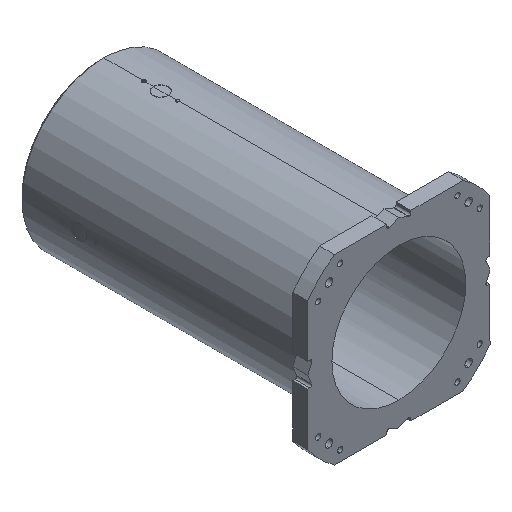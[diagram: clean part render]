
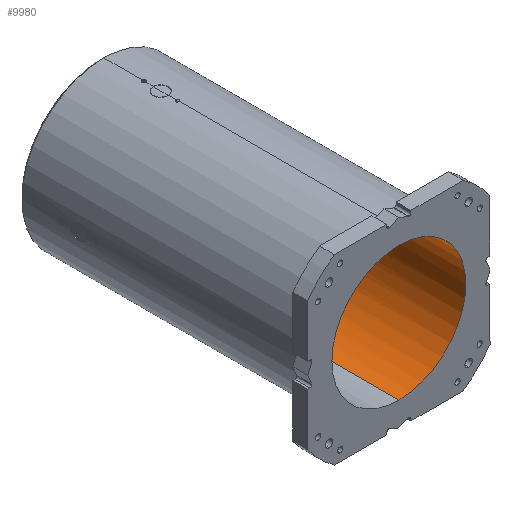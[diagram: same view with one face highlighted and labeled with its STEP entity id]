
A CAD part, isometric view. The second image highlights one B-rep face of the part: STEP entity #9980.
In plain terms, the highlighted cylindrical face has radius 180 mm (diameter 360 mm), a partial arc.
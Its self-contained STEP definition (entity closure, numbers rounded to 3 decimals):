
#141 = EDGE_CURVE ( 'NONE', #10262, #3628, #7654, .T. ) ;
#177 = VECTOR ( 'NONE', #3173, 1000. ) ;
#251 = CARTESIAN_POINT ( 'NONE',  ( 123.123, 763., 131.304 ) ) ;
#761 = EDGE_CURVE ( 'NONE', #7657, #1350, #6919, .T. ) ;
#1086 = EDGE_CURVE ( 'NONE', #7657, #9455, #11313, .T. ) ;
#1111 = CARTESIAN_POINT ( 'NONE',  ( 0., 0., -180. ) ) ;
#1256 = CARTESIAN_POINT ( 'NONE',  ( 0., 763., -180. ) ) ;
#1293 = CARTESIAN_POINT ( 'NONE',  ( 0., 763., 0. ) ) ;
#1350 = VERTEX_POINT ( 'NONE', #1111 ) ;
#1539 = ORIENTED_EDGE ( 'NONE', *, *, #4347, .T. ) ;
#1596 = DIRECTION ( 'NONE',  ( 0., 0., 1. ) ) ;
#2446 = CARTESIAN_POINT ( 'NONE',  ( 0., 763., 0. ) ) ;
#2507 = FACE_OUTER_BOUND ( 'NONE', #3857, .T. ) ;
#2608 = AXIS2_PLACEMENT_3D ( 'NONE', #5219, #3462, #1596 ) ;
#2749 = DIRECTION ( 'NONE',  ( 0., 0., 1. ) ) ;
#2760 = CARTESIAN_POINT ( 'NONE',  ( 0., 0., 180. ) ) ;
#2831 = ORIENTED_EDGE ( 'NONE', *, *, #6730, .T. ) ;
#3173 = DIRECTION ( 'NONE',  ( 0., 1., 0. ) ) ;
#3462 = DIRECTION ( 'NONE',  ( 0., 1., 0. ) ) ;
#3555 = DIRECTION ( 'NONE',  ( 0., 0., 1. ) ) ;
#3618 = DIRECTION ( 'NONE',  ( 0., 1., 0. ) ) ;
#3628 = VERTEX_POINT ( 'NONE', #1256 ) ;
#3830 = DIRECTION ( 'NONE',  ( 0., 1., 0. ) ) ;
#3843 = ORIENTED_EDGE ( 'NONE', *, *, #141, .T. ) ;
#3857 = EDGE_LOOP ( 'NONE', ( #6331, #10757, #6839, #2831, #4468, #8925, #1539, #3843 ) ) ;
#4285 = AXIS2_PLACEMENT_3D ( 'NONE', #10048, #4514, #2749 ) ;
#4295 = AXIS2_PLACEMENT_3D ( 'NONE', #9984, #3618, #6373 ) ;
#4347 = EDGE_CURVE ( 'NONE', #7264, #10262, #7653, .T. ) ;
#4367 = DIRECTION ( 'NONE',  ( 0., 1., 0. ) ) ;
#4468 = ORIENTED_EDGE ( 'NONE', *, *, #10272, .T. ) ;
#4514 = DIRECTION ( 'NONE',  ( 0., 1., 0. ) ) ;
#4837 = AXIS2_PLACEMENT_3D ( 'NONE', #6233, #4367, #9967 ) ;
#5219 = CARTESIAN_POINT ( 'NONE',  ( 0., 763., 0. ) ) ;
#5256 = CARTESIAN_POINT ( 'NONE',  ( 0., 0., 0. ) ) ;
#5700 = LINE ( 'NONE', #8249, #5944 ) ;
#5917 = EDGE_CURVE ( 'NONE', #1350, #3628, #5700, .T. ) ;
#5944 = VECTOR ( 'NONE', #3830, 1000. ) ;
#6172 = VERTEX_POINT ( 'NONE', #9809 ) ;
#6226 = EDGE_CURVE ( 'NONE', #6172, #7264, #10295, .T. ) ;
#6233 = CARTESIAN_POINT ( 'NONE',  ( 0., 763., 0. ) ) ;
#6331 = ORIENTED_EDGE ( 'NONE', *, *, #5917, .F. ) ;
#6373 = DIRECTION ( 'NONE',  ( 0., 0., 1. ) ) ;
#6633 = DIRECTION ( 'NONE',  ( 0., 0., 1. ) ) ;
#6638 = CARTESIAN_POINT ( 'NONE',  ( 0., 0., 180. ) ) ;
#6691 = CARTESIAN_POINT ( 'NONE',  ( 123.123, 763., -131.304 ) ) ;
#6730 = EDGE_CURVE ( 'NONE', #9455, #7709, #7662, .T. ) ;
#6839 = ORIENTED_EDGE ( 'NONE', *, *, #1086, .T. ) ;
#6919 = CIRCLE ( 'NONE', #4295, 180. ) ;
#6941 = CIRCLE ( 'NONE', #8825, 180. ) ;
#7264 = VERTEX_POINT ( 'NONE', #7896 ) ;
#7519 = DIRECTION ( 'NONE',  ( 0., 1., 0. ) ) ;
#7653 = CIRCLE ( 'NONE', #11428, 180. ) ;
#7654 = CIRCLE ( 'NONE', #4837, 180. ) ;
#7657 = VERTEX_POINT ( 'NONE', #2760 ) ;
#7662 = CIRCLE ( 'NONE', #2608, 180. ) ;
#7709 = VERTEX_POINT ( 'NONE', #251 ) ;
#7896 = CARTESIAN_POINT ( 'NONE',  ( 131.304, 763., -123.123 ) ) ;
#8249 = CARTESIAN_POINT ( 'NONE',  ( 0., 0., -180. ) ) ;
#8497 = CARTESIAN_POINT ( 'NONE',  ( 0., 763., 180. ) ) ;
#8799 = DIRECTION ( 'NONE',  ( 0., 1., 0. ) ) ;
#8825 = AXIS2_PLACEMENT_3D ( 'NONE', #1293, #7519, #6633 ) ;
#8925 = ORIENTED_EDGE ( 'NONE', *, *, #6226, .T. ) ;
#8977 = CYLINDRICAL_SURFACE ( 'NONE', #9760, 180. ) ;
#9455 = VERTEX_POINT ( 'NONE', #8497 ) ;
#9612 = DIRECTION ( 'NONE',  ( 0., 0., 1. ) ) ;
#9760 = AXIS2_PLACEMENT_3D ( 'NONE', #5256, #8799, #3555 ) ;
#9809 = CARTESIAN_POINT ( 'NONE',  ( 131.304, 763., 123.123 ) ) ;
#9967 = DIRECTION ( 'NONE',  ( 0., 0., 1. ) ) ;
#9980 = ADVANCED_FACE ( 'NONE', ( #2507 ), #8977, .F. ) ;
#9984 = CARTESIAN_POINT ( 'NONE',  ( 0., 0., 0. ) ) ;
#10048 = CARTESIAN_POINT ( 'NONE',  ( 0., 763., 0. ) ) ;
#10262 = VERTEX_POINT ( 'NONE', #6691 ) ;
#10272 = EDGE_CURVE ( 'NONE', #7709, #6172, #6941, .T. ) ;
#10295 = CIRCLE ( 'NONE', #4285, 180. ) ;
#10757 = ORIENTED_EDGE ( 'NONE', *, *, #761, .F. ) ;
#11313 = LINE ( 'NONE', #6638, #177 ) ;
#11428 = AXIS2_PLACEMENT_3D ( 'NONE', #2446, #11558, #9612 ) ;
#11558 = DIRECTION ( 'NONE',  ( 0., 1., 0. ) ) ;
